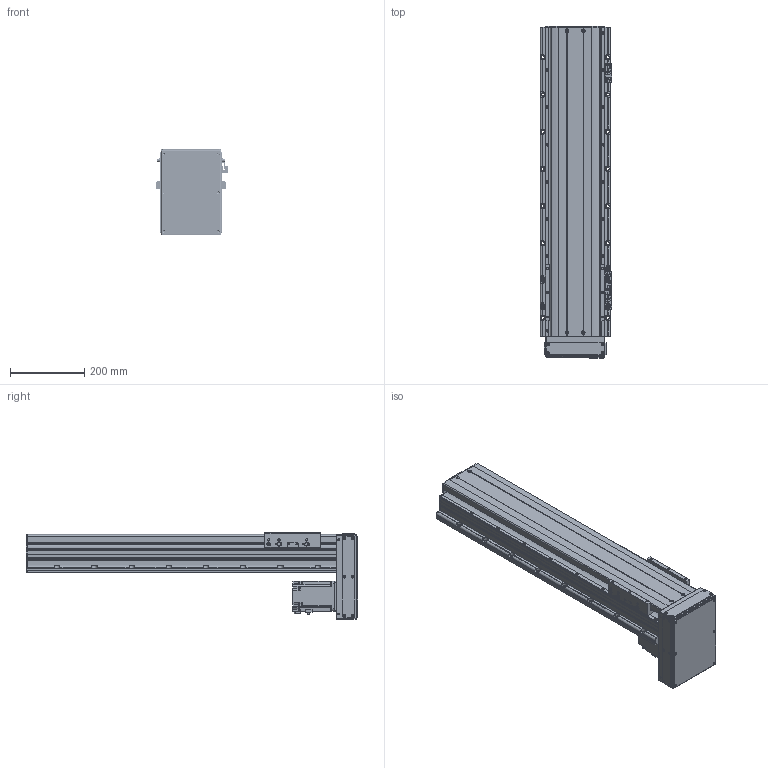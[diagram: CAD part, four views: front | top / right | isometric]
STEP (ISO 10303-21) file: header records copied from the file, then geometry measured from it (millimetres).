
FILE_DESCRIPTION(/* description */ ('MANUFACTURE','CAx-IF Rec.Pracs.---Representation and Presentation of Product Manufacturing Information (PMI)---4.0---2014-10-13'),/* implementation_level */ '2;1');
FILE_NAME(/* name */ '\\192.168.0.160\disk1\HAN SHIN Master\B-설계부문\C-표준\B-2024년\BC02-표준도면\+로봇 개선표준도면\표준 승인도 폴더 - 재작업\3D\HS Type\HS160\D-Type\HS160-D70-N-0600-R10.stp',/* time_stamp */ '2024-08-28T13:11:21+09:00',/* author */ ('user'),/* organization */ (''),/* preprocessor_version */ 'ST-DEVELOPER v18.1',/* originating_system */ 'Autodesk Inventor 2022',/* authorisation */ 'LIP');
FILE_SCHEMA (('AP242_MANAGED_MODEL_BASED_3D_ENGINEERING_MIM_LF { 1 0 10303 442 1 1 4 }'));
Products named in the file (30): HS160 D 70-N-0500-R10 - 간소화; HS160 LR BASE (400W-20Pi); 6004ZZ; 6004ZZ Outer ring; 6004ZZ Shield1; 6004ZZ Inner ring; 6004ZZ Ball; 6004ZZ Shield2; UPCOVER; HR180 FRONT BLOCK; HR180 FRONT BLOCK_1; REAR COVER; STOPPER104; HR120 SENSOR DOG; TABLE; LMKE2020 NUT; NUT HOLDER; hsr_ftht_A-M6F_grease_nipple_joint; NIPPLE CAP(신규); hg-kr73_; 750W MOTOR PLATE; 화살표; SENSOR BRK(EE-SX674A); EE_SX674A; HS160 D MOTOR PLATE; HG160DACRYLCOVER001; HG160DACRYLCOVER003; HG160 D BELT COVER; HG160ACRYLCOVER002; SIDE COVER
Assembly tree (57 placements, depth 3):
  HS160 D 70-N-0500-R10 - 간소화
    HS160 LR BASE (400W-20Pi)
    6004ZZ
      6004ZZ Outer ring
      6004ZZ Shield1
      6004ZZ Inner ring
      6004ZZ Ball  x13
      6004ZZ Shield2
    UPCOVER
    SIDE COVER  x2
    HR180 FRONT BLOCK
    HR180 FRONT BLOCK_1
    REAR COVER
    STOPPER104  x2
    HR120 SENSOR DOG
    SENSOR BRK(EE-SX674A)  x3
    EE_SX674A  x3
    TABLE
    LMKE2020 NUT
    NUT HOLDER
    hsr_ftht_A-M6F_grease_nipple_joint  x5
    NIPPLE CAP(신규)  x5
    화살표  x2
    hg-kr73_
    750W MOTOR PLATE
    HS160 D MOTOR PLATE
    HG160DACRYLCOVER001
    HG160ACRYLCOVER002  x2
    HG160DACRYLCOVER003
    HG160 D BELT COVER
Bounding box: 193.5 x 892 x 232 mm (x, y, z)
Volume: 6645559 mm3; surface area: 1705583.5 mm2
Topology: 56 solids, 56 shells, 2605 faces, 7207 edges, 4686 vertices
Faces by surface type: plane 1194, cylinder 967, cone 331, sphere 57, torus 36, bspline 20
Full cylindrical faces by diameter (mm): 2.459 x40, 3 x32, 3.2 x2, 3.242 x48, 3.4 x22, 3.5 x6, 4.134 x28, 4.2 x8, 4.5 x36, 4.917 x57, 5 x30, 5.5 x25, 5.6 x5, 5.9 x4, 6 x19, 6.5 x16, 6.6 x18, 7 x4, 7.6 x4, 8.376 x16, 9 x6, 9.5 x29, 11 x14, 19 x1, 20 x2, 25 x1, 25.7 x4, 27 x2, 29.5 x1, 30 x1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
Entity records: 74476 total; most frequent: CARTESIAN_POINT 15269, DIRECTION 11892, ORIENTED_EDGE 10730, EDGE_CURVE 5365, AXIS2_PLACEMENT_3D 4457, VERTEX_POINT 3568, LINE 2978, VECTOR 2978
